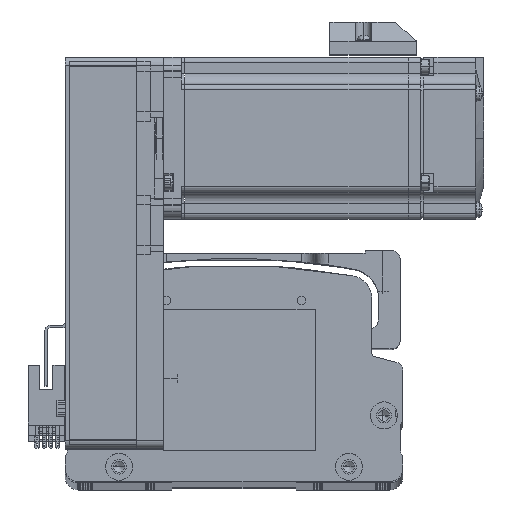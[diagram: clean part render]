
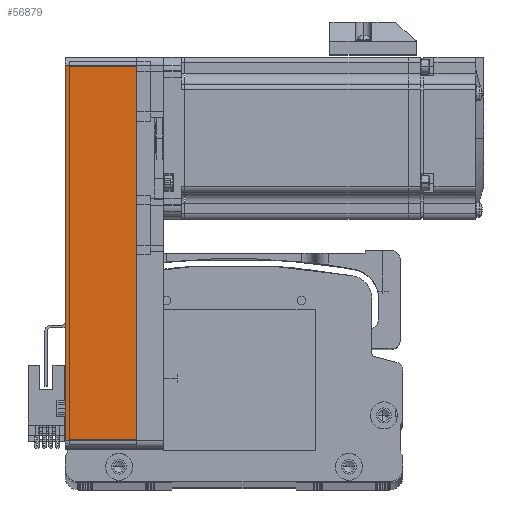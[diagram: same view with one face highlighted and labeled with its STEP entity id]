
A CAD part, top view. The second image highlights one B-rep face of the part: STEP entity #56879.
In plain terms, the highlighted planar face has unit normal (0, 0, 1) as drawn and (0, -1, 0) by its records, which use the part's own axes.
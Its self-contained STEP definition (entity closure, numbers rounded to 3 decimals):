
#936 = VERTEX_POINT ( 'NONE', #4326 ) ;
#1008 = ORIENTED_EDGE ( 'NONE', *, *, #48275, .T. ) ;
#2806 = CARTESIAN_POINT ( 'NONE',  ( 72.5, -30., 0. ) ) ;
#3814 = VERTEX_POINT ( 'NONE', #29259 ) ;
#4326 = CARTESIAN_POINT ( 'NONE',  ( -69.5, -30., 0. ) ) ;
#4502 = DIRECTION ( 'NONE',  ( 0., 0., 1. ) ) ;
#7216 = LINE ( 'NONE', #2806, #74565 ) ;
#10997 = DIRECTION ( 'NONE',  ( 0., 1., 0. ) ) ;
#13237 = CARTESIAN_POINT ( 'NONE',  ( 69.5, -30., 26.5 ) ) ;
#16073 = AXIS2_PLACEMENT_3D ( 'NONE', #51283, #10997, #58037 ) ;
#16618 = CARTESIAN_POINT ( 'NONE',  ( -69.5, -30., 26.5 ) ) ;
#17471 = PLANE ( 'NONE',  #16073 ) ;
#18178 = LINE ( 'NONE', #23442, #33981 ) ;
#23254 = VERTEX_POINT ( 'NONE', #16618 ) ;
#23442 = CARTESIAN_POINT ( 'NONE',  ( 72.5, -30., 26.5 ) ) ;
#24405 = VECTOR ( 'NONE', #30051, 1000. ) ;
#24579 = EDGE_CURVE ( 'NONE', #23254, #936, #42307, .T. ) ;
#29259 = CARTESIAN_POINT ( 'NONE',  ( 69.5, -30., 0. ) ) ;
#30051 = DIRECTION ( 'NONE',  ( 0., 0., -1. ) ) ;
#33981 = VECTOR ( 'NONE', #50158, 1000. ) ;
#39842 = VERTEX_POINT ( 'NONE', #13237 ) ;
#41479 = VECTOR ( 'NONE', #4502, 1000. ) ;
#41892 = FACE_OUTER_BOUND ( 'NONE', #70230, .T. ) ;
#42307 = LINE ( 'NONE', #70260, #24405 ) ;
#46129 = EDGE_CURVE ( 'NONE', #936, #3814, #7216, .T. ) ;
#48275 = EDGE_CURVE ( 'NONE', #3814, #39842, #57184, .T. ) ;
#50158 = DIRECTION ( 'NONE',  ( 1., 0., 0. ) ) ;
#51283 = CARTESIAN_POINT ( 'NONE',  ( 72.5, -30., 26.5 ) ) ;
#52353 = ORIENTED_EDGE ( 'NONE', *, *, #24579, .T. ) ;
#55276 = ORIENTED_EDGE ( 'NONE', *, *, #80048, .F. ) ;
#56879 = ADVANCED_FACE ( 'NONE', ( #41892 ), #17471, .F. ) ;
#57184 = LINE ( 'NONE', #85065, #41479 ) ;
#58037 = DIRECTION ( 'NONE',  ( -1., 0., 0. ) ) ;
#63465 = DIRECTION ( 'NONE',  ( 1., 0., 0. ) ) ;
#70230 = EDGE_LOOP ( 'NONE', ( #86044, #1008, #55276, #52353 ) ) ;
#70260 = CARTESIAN_POINT ( 'NONE',  ( -69.5, -30., 26.5 ) ) ;
#74565 = VECTOR ( 'NONE', #63465, 1000. ) ;
#80048 = EDGE_CURVE ( 'NONE', #23254, #39842, #18178, .T. ) ;
#85065 = CARTESIAN_POINT ( 'NONE',  ( 69.5, -30., 26.5 ) ) ;
#86044 = ORIENTED_EDGE ( 'NONE', *, *, #46129, .T. ) ;
